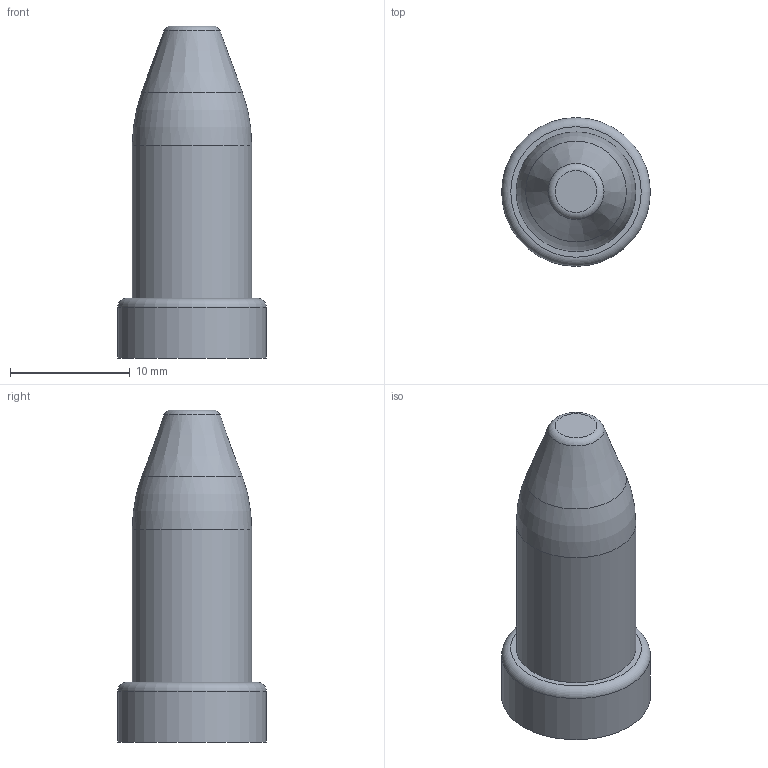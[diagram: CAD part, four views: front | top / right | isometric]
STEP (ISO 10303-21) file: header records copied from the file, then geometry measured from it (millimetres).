
FILE_DESCRIPTION (( 'STEP AP214' ), '1' );
FILE_NAME ('P-10mm-1.9mm-.625.STEP', '2023-11-07T11:15:11', ( '' ), ( '' ), 'SwSTEP 2.0', 'SolidWorks 2020', '' );
FILE_SCHEMA (( 'AUTOMOTIVE_DESIGN' ));
Length unit declared in the file: inch
Products named in the file (1): P-10mm-1.9mm-.625
Bounding box: 12.45 x 12.45 x 27.78 mm (x, y, z)
Volume: 2106.5 mm3; surface area: 1016.3 mm2
Topology: 1 solids, 1 shells, 9 faces, 14 edges, 8 vertices
Faces by surface type: plane 3, torus 3, cylinder 2, cone 1
Full cylindrical faces by diameter (mm): 10 x1, 12.446 x1
Entity records: 214 total; most frequent: DIRECTION 36, CARTESIAN_POINT 26, AXIS2_PLACEMENT_3D 18, ORIENTED_EDGE 16, EDGE_LOOP 16, FACE_OUTER_BOUND 14, ADVANCED_FACE 9, CIRCLE 8
